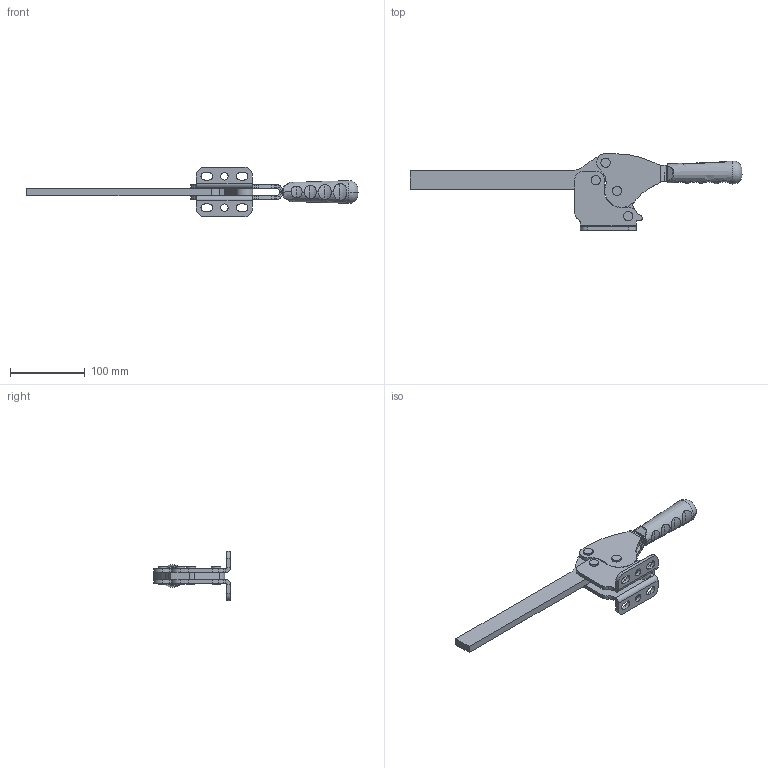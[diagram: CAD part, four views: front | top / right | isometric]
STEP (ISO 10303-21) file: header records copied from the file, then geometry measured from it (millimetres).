
FILE_DESCRIPTION (( 'STEP AP203' ), '1' );
FILE_NAME ('1265_Y_L_MONTAJ.STEP', '2022-04-26T14:12:24', ( '' ), ( '' ), 'SwSTEP 2.0', 'SolidWorks 2020', '' );
FILE_SCHEMA (( 'CONFIG_CONTROL_DESIGN' ));
Length unit declared in the file: millimetre
Products named in the file (9): 1265_MAFSAL; 1265_Y_L_MONTAJ; 8x25_PERﾇﾝN; Aynalama1265 Y-D Gövde; Aynalama1265_HAREKET_KOLU; C100_Yeni_Tutamak_10x20; 1265_LAMA_BASKI_KOLU; 1265_HAREKET_KOLU; 1265 Y-D Gövde
Assembly tree (11 placements, depth 2):
  1265_Y_L_MONTAJ
    1265 Y-D Gövde
    1265_HAREKET_KOLU
    1265_MAFSAL
    Aynalama1265 Y-D Gövde
    Aynalama1265_HAREKET_KOLU
    8x25_PERﾇﾝN  x4
    C100_Yeni_Tutamak_10x20
    1265_LAMA_BASKI_KOLU
Bounding box: 445.07 x 102.78 x 66 mm (x, y, z)
Volume: 244531.9 mm3; surface area: 102437.4 mm2
Topology: 11 solids, 11 shells, 645 faces, 1675 edges, 1076 vertices
Faces by surface type: plane 375, cylinder 195, bspline 35, torus 34, cone 6
Entity records: 18159 total; most frequent: CARTESIAN_POINT 5362, ORIENTED_EDGE 2510, DIRECTION 2363, EDGE_CURVE 1255, VERTEX_POINT 812, AXIS2_PLACEMENT_3D 789, LINE 785, VECTOR 785
